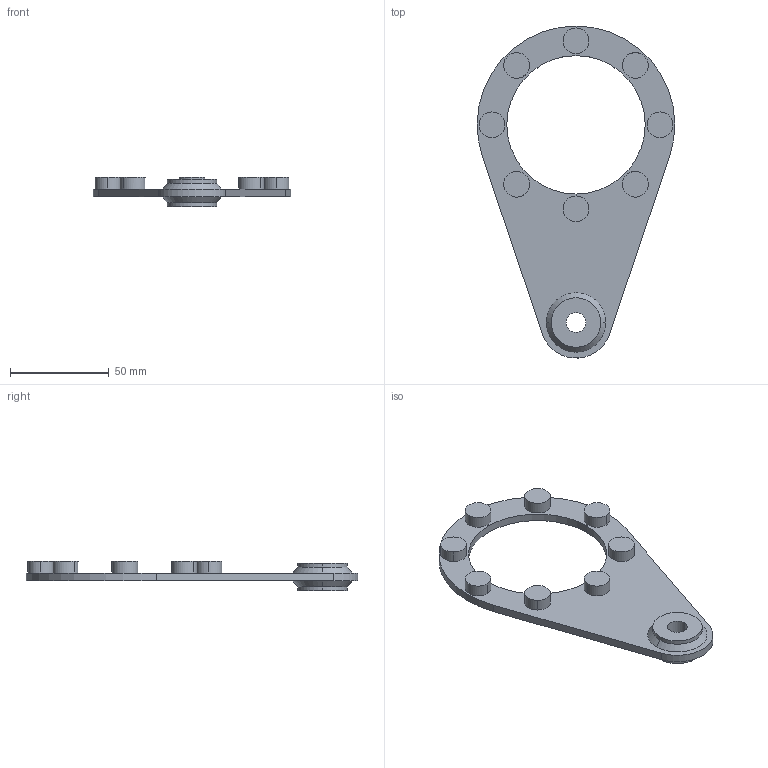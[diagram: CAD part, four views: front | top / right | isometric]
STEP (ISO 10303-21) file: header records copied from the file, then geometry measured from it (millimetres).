
FILE_DESCRIPTION(/* description */ (''),/* implementation_level */ '2;1');
FILE_NAME(/* name */ '8_BRACCIO DI REAZIONE NMRV050',/* time_stamp */ '2025-10-09T14:41:33+02:00',/* author */ (''),/* organization */ (''),/* preprocessor_version */ 'ST-DEVELOPER v19.2',/* originating_system */ 'Rhino 8.23',/* authorisation */ '');
FILE_SCHEMA (('CONFIG_CONTROL_DESIGN'));
Length unit declared in the file: millimetre
Products named in the file (2): Document; 50-100
Bounding box: 99.98 x 167.94 x 15 mm (x, y, z)
Volume: 41772.4 mm3; surface area: 20853.9 mm2
Topology: 1 solids, 1 shells, 44 faces, 100 edges, 68 vertices
Faces by surface type: cylinder 26, plane 14, bspline 4
Entity records: 1604 total; most frequent: CARTESIAN_POINT 416, ORIENTED_EDGE 200, DIRECTION 176, AXIS2_PLACEMENT_3D 108, EDGE_CURVE 100, VERTEX_POINT 68, TRIMMED_CURVE 64, CIRCLE 64
